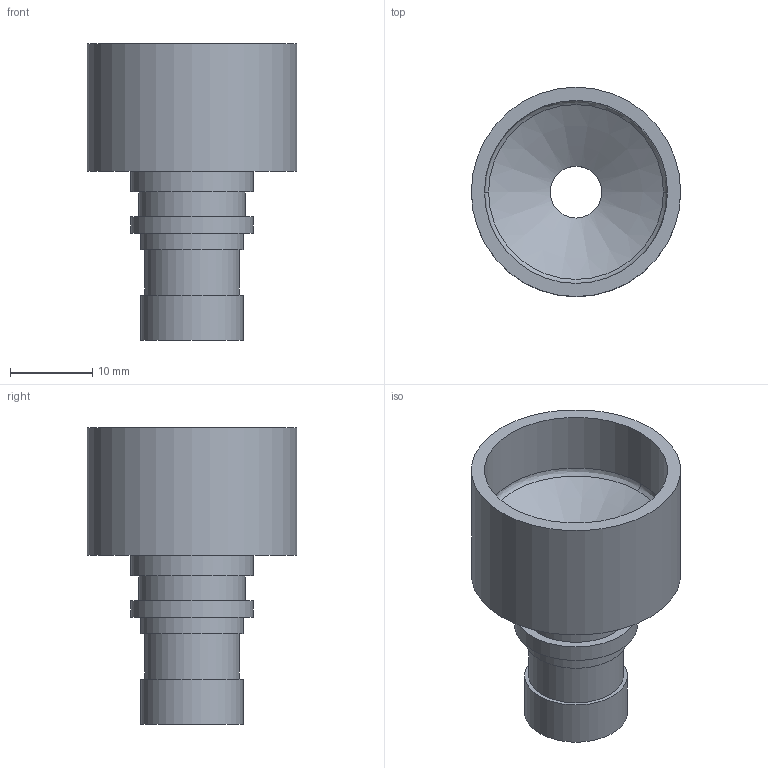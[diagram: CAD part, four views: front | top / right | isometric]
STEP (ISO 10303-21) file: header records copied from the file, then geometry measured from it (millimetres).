
FILE_DESCRIPTION (( 'STEP AP203' ), '1' );
FILE_NAME ('70-9.5R25.4-PH.STEP', '2013-09-19T10:45:41', ( '' ), ( '' ), 'SwSTEP 2.0', 'SolidWorks 2012', '' );
FILE_SCHEMA (( 'CONFIG_CONTROL_DESIGN' ));
Length unit declared in the file: millimetre
Products named in the file (1): 70-9.5R25.4-PH
Bounding box: 25.4 x 25.4 x 36 mm (x, y, z)
Volume: 5598.5 mm3; surface area: 4272.2 mm2
Topology: 1 solids, 1 shells, 22 faces, 37 edges, 24 vertices
Faces by surface type: cylinder 10, plane 9, bspline 2, cone 1
Full cylindrical faces by diameter (mm): 6.3 x1, 9.48 x1, 11.48 x1, 12.43 x1, 12.5 x1, 12.9 x1, 14.9 x2, 22.2 x1, 25.4 x1
Entity records: 567 total; most frequent: CARTESIAN_POINT 107, DIRECTION 88, ORIENTED_EDGE 50, AXIS2_PLACEMENT_3D 44, EDGE_LOOP 42, FACE_OUTER_BOUND 32, EDGE_CURVE 25, CIRCLE 23
